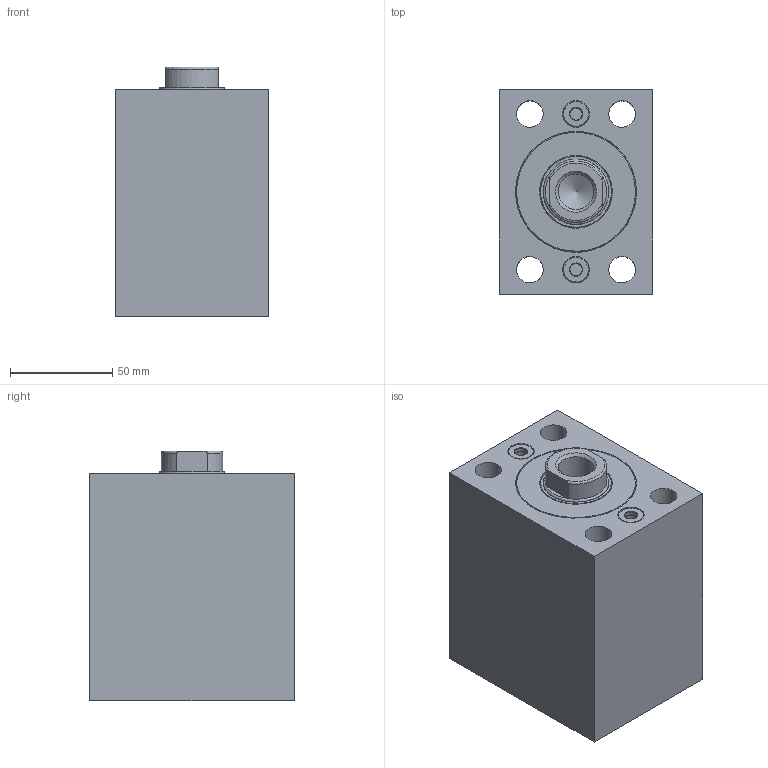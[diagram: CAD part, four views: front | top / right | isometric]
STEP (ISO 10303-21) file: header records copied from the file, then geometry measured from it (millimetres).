
FILE_DESCRIPTION( ( 'STEP AP203' ), '1' );
FILE_NAME( 'C:/Users/SAYKO.ltd/Desktop/SBZ100/07/SBZ100-50/SBZ100.50__FORM_07_STROKE_25__H2_58_POS_0_.stp', ' ', ( ' ' ), ( ' ' ), 'PSStep 15.0.47', 'PARTsolutions', ' ' );
FILE_SCHEMA( ( 'CONFIG_CONTROL_DESIGN' ) );
Length unit declared in the file: millimetre
Products named in the file (5): SBZ100.50  FORM=07 STROKE=25 (H2=58 POS=0); HI_SBZ10050  FORM=07 STROKE=25 H2=58 -C; HI_SBZ10050  FORM=07 STROKE=25-R; HI_SBZ100.50-C; HI_SBZ100.50-S
Assembly tree (4 placements, depth 2):
  SBZ100.50  FORM=07 STROKE=25 (H2=58 POS=0)
    HI_SBZ10050  FORM=07 STROKE=25 H2=58 -C
    HI_SBZ10050  FORM=07 STROKE=25-R
    HI_SBZ100.50-C
    HI_SBZ100.50-S
Bounding box: 75 x 100 x 122 mm (x, y, z)
Volume: 731283.4 mm3; surface area: 126038 mm2
Topology: 4 solids, 4 shells, 74 faces, 136 edges, 87 vertices
Faces by surface type: plane 33, cylinder 28, cone 10, torus 3
Full cylindrical faces by diameter (mm): 6 x4, 13 x6, 17.294 x1, 20 x4, 32 x4, 35.5 x1, 40 x2, 50 x2, 59 x2
Entity records: 4047 total; most frequent: CARTESIAN_POINT 2717, ORIENTED_EDGE 188, DIRECTION 178, EDGE_LOOP 140, FACE_OUTER_BOUND 101, EDGE_CURVE 94, VERTEX_POINT 83, AXIS2_PLACEMENT_3D 81
